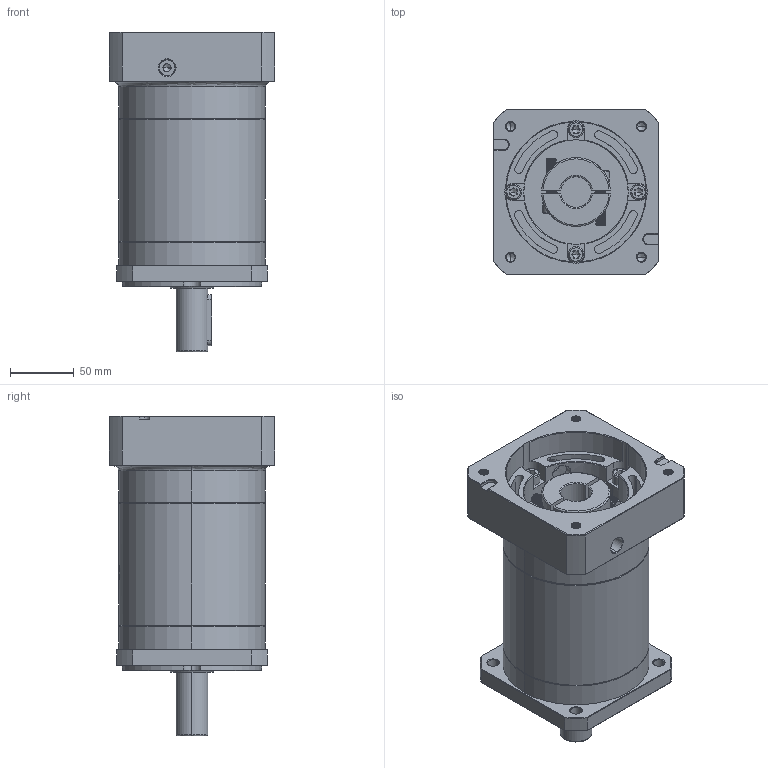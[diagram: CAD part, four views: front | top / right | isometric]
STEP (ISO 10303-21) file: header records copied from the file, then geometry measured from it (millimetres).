
FILE_DESCRIPTION (( 'STEP AP214' ), '1' );
FILE_NAME ('ZF120A-D25-L3-P2-24-110-145-M8.step', '2023-08-27T04:42:38', ( '' ), ( '' ), 'SwSTEP 2.0', 'SolidWorks 2016', '' );
FILE_SCHEMA (( 'AUTOMOTIVE_DESIGN' ));
Length unit declared in the file: millimetre
Products named in the file (1): ZF120A-D25-L3-P2-24-110-145-M8
Bounding box: 130 x 130 x 251 mm (x, y, z)
Volume: 2045831.9 mm3; surface area: 203033.1 mm2
Topology: 6 solids, 6 shells, 2278 faces, 6077 edges, 3898 vertices
Faces by surface type: plane 1060, cylinder 449, bspline 421, cone 328, torus 20
Entity records: 126275 total; most frequent: CARTESIAN_POINT 49909, ORIENTED_EDGE 12094, DIRECTION 8811, EDGE_CURVE 6047, VERTEX_POINT 3898, VECTOR 3173, LINE 3173, AXIS2_PLACEMENT_3D 2819
